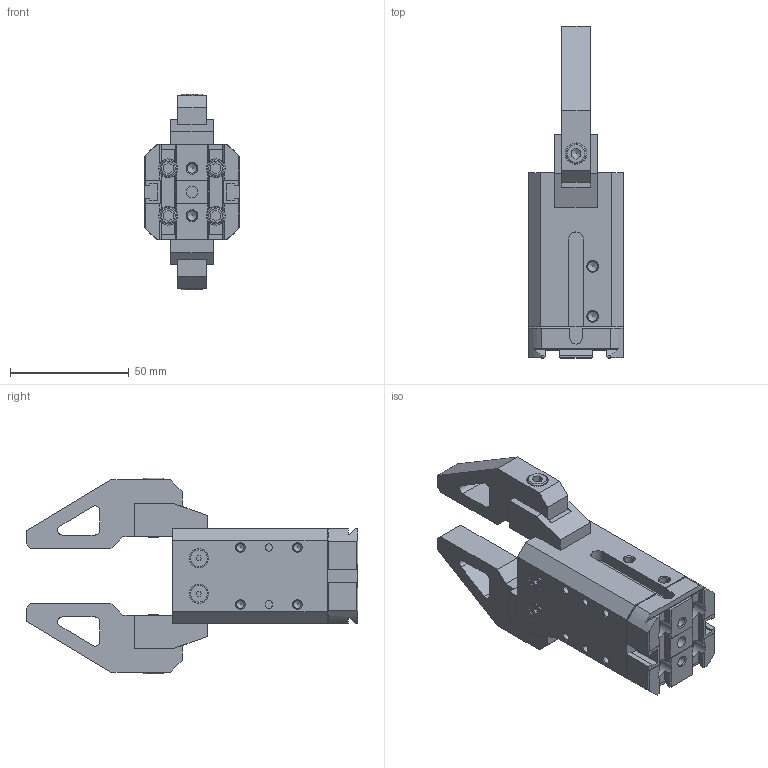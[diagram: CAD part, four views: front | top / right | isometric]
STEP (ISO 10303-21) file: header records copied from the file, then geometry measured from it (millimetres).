
FILE_DESCRIPTION(/* description */ ('Grippers with 2 parallel jaws series P1K-'),/* implementation_level */ '2;1');
FILE_NAME(/* name */ 'W1550200001K(1).stp',/* time_stamp */ '2025-02-14T09:11:48+01:00',/* author */ ('Ryzen5700u'),/* organization */ ('METALWORK'),/* preprocessor_version */ 'ST-DEVELOPER v20',/* originating_system */ 'Autodesk Inventor 2025',/* authorisation */ '');
FILE_SCHEMA (('AUTOMOTIVE_DESIGN { 1 0 10303 214 3 1 1 }'));
Length unit declared in the file: millimetre
Products named in the file (7): W1550200001K(1)//; V_lock_for_W1550200001; P1K-20(1)_2; P1K-20(1); dito; dito_MIR; AS 1420 - 1973 - M5 x 20
Assembly tree (8 placements, depth 2):
  W1550200001K(1)//
    P1K-20(1)  x2
    V_lock_for_W1550200001
    P1K-20(1)_2
    dito
    dito_MIR
    AS 1420 - 1973 - M5 x 20  x2
Bounding box: 40 x 139.75 x 82.4 mm (x, y, z)
Volume: 144402.7 mm3; surface area: 39268.8 mm2
Topology: 8 solids, 8 shells, 587 faces, 1526 edges, 1001 vertices
Faces by surface type: plane 357, bspline 99, cylinder 78, cone 45, torus 8
Full cylindrical faces by diameter (mm): 3 x2, 3.242 x12, 4.134 x4, 4.917 x2, 5 x3, 5.5 x2, 7 x8, 8 x8, 8.5 x2, 9 x2, 22 x1
Entity records: 17926 total; most frequent: CARTESIAN_POINT 4521, ORIENTED_EDGE 2876, DIRECTION 2365, EDGE_CURVE 1438, LINE 993, VECTOR 993, VERTEX_POINT 955, AXIS2_PLACEMENT_3D 686
